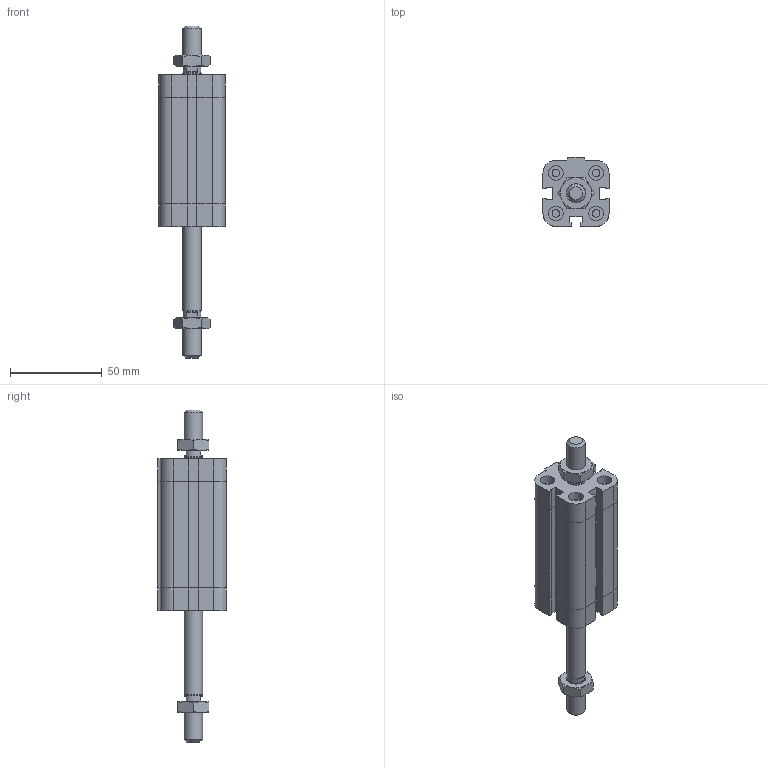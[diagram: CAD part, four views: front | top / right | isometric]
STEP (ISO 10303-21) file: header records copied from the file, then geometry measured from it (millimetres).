
FILE_DESCRIPTION((''),'2;1');
FILE_NAME('I:\Area Tecnica\Disegni\VARIE-3D\Componenti\EUROPE\15##_###_####_04_#\1581_20_0045_04_1.iam.stp','2009-04-20T14:49:58',(''),(''),'Autodesk Inventor 2009','Autodesk Inventor 2009','');
FILE_SCHEMA(('AUTOMOTIVE_DESIGN { 1 0 10303 214 1 1 1 1 }'));
Length unit declared in the file: millimetre
Products named in the file (4): 1581_20_0045_04_1; 1581_20_0045_03_1_C; 1561_20_0045_04_1_S; DBFM10
Assembly tree (4 placements, depth 2):
  1581_20_0045_04_1
    1581_20_0045_03_1_C
    1561_20_0045_04_1_S
    DBFM10  x2
Bounding box: 36 x 37.5 x 181 mm (x, y, z)
Volume: 103049 mm3; surface area: 29582.2 mm2
Topology: 4 solids, 4 shells, 222 faces, 483 edges, 289 vertices
Faces by surface type: plane 129, cone 35, bspline 33, cylinder 25
Full cylindrical faces by diameter (mm): 4.134 x4, 7.9 x1, 8 x4, 9.8 x2, 10 x2
Entity records: 5450 total; most frequent: CARTESIAN_POINT 1222, DIRECTION 802, ORIENTED_EDGE 772, EDGE_CURVE 386, AXIS2_PLACEMENT_3D 272, EDGE_LOOP 258, VECTOR 258, LINE 258
